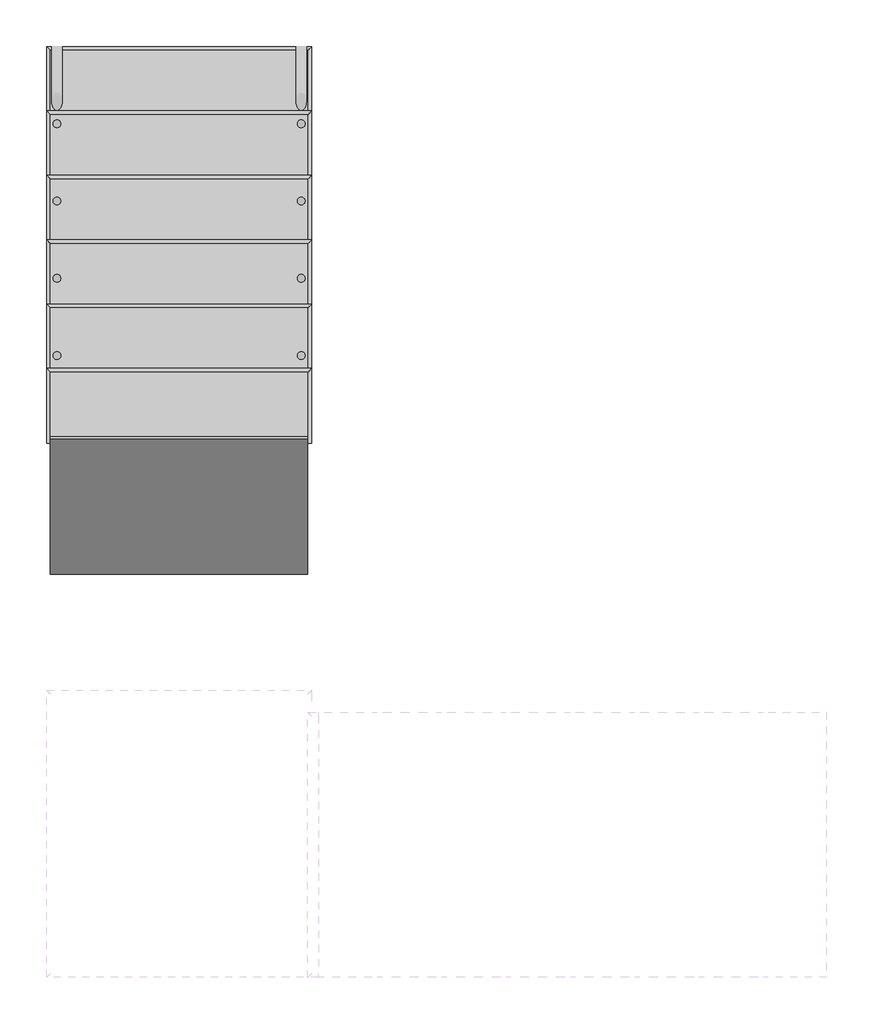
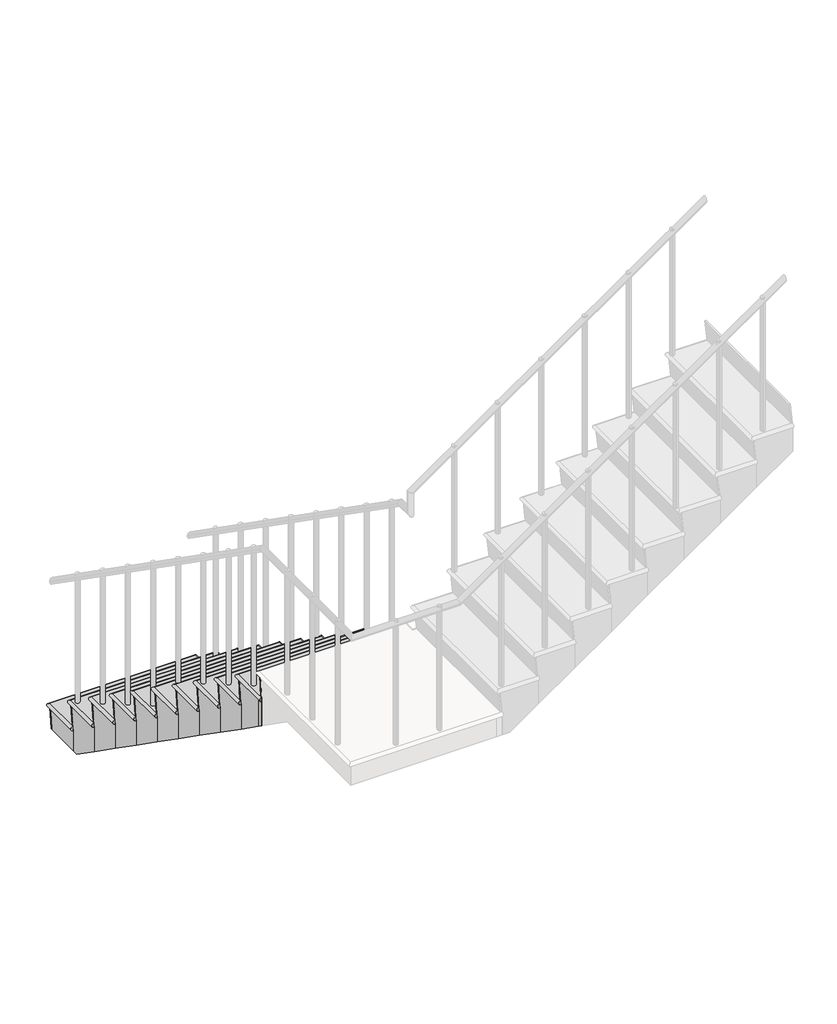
# One storey, part 3 of 6: 1 stair flight.
"""IFC4 building model written with IfcOpenShell, lengths in millimetres."""

from ifc_helpers import new_model, si_unit, frame, origin, place, context, project, spatial, circle_curve, ellipse_curve, faceted_brep, element, save
from ifc_brep_helpers import plane_surface, cylinder_surface, advanced_brep

model = new_model("IFC4")

# Units and contexts
model_context = context("Model", 3, world=origin())
ifc_project = project(units=[si_unit("LENGTHUNIT", "METRE", prefix="MILLI")], contexts=[model_context])

# Site, building, storey
site = spatial("IfcSite", under=ifc_project)
building = spatial("IfcBuilding", under=site)
storey = spatial("IfcBuildingStorey", under=building, Name="樓層 1", Elevation=0.0)

# Stair flight
placement = place(None, origin())
element("IfcStairFlight", 1, ObjectType="20mm 踏板 30mm 突沿 10mm 豎板", at=placement, inside=storey, context=model_context, shape_type="SolidModel", body=[
    faceted_brep([(-6429.5669097, 2976.8888386, 155.0), (-5429.5669097, 2976.8888386, 155.0), (-5429.5669097, 2960.8543559, 0.0), (-6429.5669097, 2960.8543559, 0.0), (-6429.5669097, 2708.7853903, 155.0), (-5429.5669097, 2708.7853903, 155.0), (-5429.5669097, 2708.7853903, 0.0), (-6429.5669097, 2708.7853903, 0.0), (-5429.5669097, 2726.8888386, 330.0), (-6429.5669097, 2726.8888386, 330.0), (-6429.5669097, 2458.7853903, 330.0), (-5429.5669097, 2458.7853903, 330.0), (-5429.5669097, 2458.7853903, 144.4603546), (-5429.5669097, 2665.1573256, 0.0), (-6429.5669097, 2665.1573256, 0.0), (-6429.5669097, 2458.7853903, 144.4603546), (-5429.5669097, 2476.8888386, 505.0), (-6429.5669097, 2476.8888386, 505.0), (-6429.5669097, 2208.7853903, 505.0), (-5429.5669097, 2208.7853903, 505.0), (-5429.5669097, 2208.7853903, 319.4603546), (-6429.5669097, 2208.7853903, 319.4603546), (-5429.5669097, 2226.8888386, 680.0), (-6429.5669097, 2226.8888386, 680.0), (-6429.5669097, 1958.7853903, 680.0), (-5429.5669097, 1958.7853903, 680.0), (-5429.5669097, 1958.7853903, 494.4603546), (-6429.5669097, 1958.7853903, 494.4603546), (-5429.5669097, 1976.8888386, 855.0), (-6429.5669097, 1976.8888386, 855.0), (-6429.5669097, 1708.7853903, 855.0), (-5429.5669097, 1708.7853903, 855.0), (-5429.5669097, 1708.7853903, 669.4603546), (-6429.5669097, 1708.7853903, 669.4603546), (-5429.5669097, 1726.8888386, 1030.0), (-6429.5669097, 1726.8888386, 1030.0), (-6429.5669097, 1458.7853903, 1030.0), (-5429.5669097, 1458.7853903, 1030.0), (-5429.5669097, 1458.7853903, 844.4603546), (-6429.5669097, 1458.7853903, 844.4603546), (-5429.5669097, 1476.8888386, 1205.0), (-6429.5669097, 1476.8888386, 1205.0), (-6429.5669097, 1208.7853903, 1205.0), (-5429.5669097, 1208.7853903, 1205.0), (-5429.5669097, 1208.7853903, 1019.4603546), (-6429.5669097, 1208.7853903, 1019.4603546), (-5429.5669097, 1226.8888386, 1380.0), (-6429.5669097, 1226.8888386, 1380.0), (-6429.5669097, 958.7853903, 1380.0), (-5429.5669097, 958.7853903, 1380.0), (-5429.5669097, 958.7853903, 1194.4603546), (-6429.5669097, 958.7853903, 1194.4603546), (-5429.5669097, 976.8888386, 1555.0), (-6429.5669097, 976.8888386, 1555.0), (-6429.5669097, 708.7853903, 1555.0), (-5429.5669097, 708.7853903, 1555.0), (-5429.5669097, 708.7853903, 1369.4603546), (-6429.5669097, 708.7853903, 1369.4603546), (-5429.5669097, 500.9077212, 1514.974723), (-5429.5669097, 458.7853903, 1544.4603546), (-6429.5669097, 458.7853903, 1544.4603546), (-6429.5669097, 500.9077212, 1514.974723), (-5429.5669097, 458.7853903, 1730.0), (-5429.5669097, 500.9077212, 1730.0), (-5429.5669097, 726.8888386, 1730.0), (-6429.5669097, 726.8888386, 1730.0), (-6429.5669097, 500.9077212, 1730.0), (-6429.5669097, 458.7853903, 1730.0)], [[[0, 1, 2, 3]], [[1, 0, 4, 5]], [[1, 5, 6, 2]], [[4, 0, 3, 7]], [[8, 9, 10, 11]], [[6, 5, 8, 11, 12, 13]], [[4, 7, 14, 15, 10, 9]], [[5, 4, 9, 8]], [[16, 17, 18, 19]], [[16, 19, 20, 12, 11]], [[18, 17, 10, 15, 21]], [[11, 10, 17, 16]], [[22, 23, 24, 25]], [[22, 25, 26, 20, 19]], [[24, 23, 18, 21, 27]], [[19, 18, 23, 22]], [[28, 29, 30, 31]], [[28, 31, 32, 26, 25]], [[30, 29, 24, 27, 33]], [[25, 24, 29, 28]], [[34, 35, 36, 37]], [[34, 37, 38, 32, 31]], [[36, 35, 30, 33, 39]], [[31, 30, 35, 34]], [[40, 41, 42, 43]], [[40, 43, 44, 38, 37]], [[42, 41, 36, 39, 45]], [[37, 36, 41, 40]], [[46, 47, 48, 49]], [[46, 49, 50, 44, 43]], [[48, 47, 42, 45, 51]], [[43, 42, 47, 46]], [[52, 53, 54, 55]], [[52, 55, 56, 50, 49]], [[54, 53, 48, 51, 57]], [[49, 48, 53, 52]], [[2, 6, 13, 14, 7, 3]], [[14, 13, 12, 20, 26, 32, 38, 44, 50, 56, 58, 59, 60, 61, 57, 51, 45, 39, 33, 27, 21, 15]], [[62, 63, 64, 65, 66, 67]], [[63, 62, 59, 58]], [[64, 63, 58, 56, 55]], [[66, 65, 54, 57, 61]], [[67, 66, 61, 60]], [[62, 67, 60, 59]], [[55, 54, 65, 64]]]),
    advanced_brep(
    [(-6429.5669097, 2710.8543559, 175.0), (-6429.5669097, 2708.7853903, 155.0), (-5429.5669097, 2708.7853903, 155.0), (-5429.5669097, 2710.8543559, 175.0), (-5429.5669097, 2985.9077212, 175.0), (-6429.5669097, 2985.9077212, 175.0), (-6429.5669097, 2710.8543559, 155.0), (-6429.5669097, 2985.9077212, 155.0), (-5429.5669097, 2985.9077212, 155.0), (-5429.5669097, 2710.8543559, 155.0), (-6429.5669097, 2710.8543559, 145.0), (-6429.5669097, 2985.9077212, 145.0), (-5429.5669097, 2985.9077212, 145.0), (-5429.5669097, 2710.8543559, 145.0)],
    [
        (0, 1),
        (1, 2),
        (2, 3),
        (3, 0),
        (3, 4),
        (4, 5),
        (5, 0),
        (1, 6),
        (6, 7),
        (7, 8),
        (8, 9),
        (9, 2),
        (9, 3),
        (0, 6),
        (0, 10, circle_curve(frame((-6429.5669097, 2710.8543559, 160.0), z_axis=(0.0, -1.0, 0.0), x_axis=(1.0, 0.0, 0.0)), 15.0)),
        (10, 6),
        (5, 11, ellipse_curve(frame((-6429.5669097, 2985.9077212, 160.0), z_axis=(-0.7071067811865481, -0.7071067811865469, 0.0), x_axis=(0.7071067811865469, -0.7071067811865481, 0.0)), 21.2132034, 15.0)),
        (11, 10),
        (11, 7),
        (4, 12, ellipse_curve(frame((-5429.5669097, 2985.9077212, 160.0), z_axis=(-0.7071067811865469, 0.7071067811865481, 0.0), x_axis=(-0.7071067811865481, -0.7071067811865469, 0.0)), 21.2132034, 15.0)),
        (12, 11),
        (12, 8),
        (13, 3, circle_curve(frame((-5429.5669097, 2710.8543559, 160.0), z_axis=(0.0, -1.0, 0.0), x_axis=(-1.0, 0.0, 0.0)), 15.0)),
        (9, 13),
        (13, 12),
    ],
    [
        plane_surface(frame((-6429.5669097, 2708.7853903, 155.0), z_axis=(0.0, -0.9946917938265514, 0.10289915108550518), x_axis=(1.0, 0.0, 0.0))),
        plane_surface(frame((-5429.5669097, 3000.9077212, 175.0), z_axis=(0.0, 0.0, 1.0), x_axis=(0.0, 1.0, 0.0))),
        plane_surface(frame((-5429.5669097, 3000.9077212, 155.0), z_axis=(0.0, 0.0, -1.0), x_axis=(0.0, -1.0, 0.0))),
        plane_surface(frame((-5429.5669097, 2710.8543559, 175.0), z_axis=(1.0, 0.0, 0.0), x_axis=(0.0, 0.0, -1.0))),
        plane_surface(frame((-6429.5669097, 2985.9077212, 175.0), z_axis=(-1.0, 0.0, 0.0), x_axis=(0.0, 0.0, -1.0))),
        plane_surface(frame((-6429.5669097, 2710.8543559, 175.0), z_axis=(0.0, -1.0, 0.0), x_axis=(0.0, 0.0, -1.0))),
        cylinder_surface(frame((-6429.5669097, 2710.8543559, 160.0), z_axis=(0.0, -1.0, 0.0), x_axis=(1.0, 0.0, 0.0)), 15.0),
        plane_surface(frame((-6429.5669097, 2710.8543559, 145.0), z_axis=(1.0, 0.0, 0.0), x_axis=(0.0, 1.0, 0.0))),
        cylinder_surface(frame((-6429.5669097, 2985.9077212, 160.0), z_axis=(-1.0, 0.0, 0.0), x_axis=(0.0, -1.0, 0.0)), 15.0),
        plane_surface(frame((-6429.5669097, 2985.9077212, 145.0), z_axis=(0.0, -1.0, 0.0), x_axis=(1.0, 0.0, 0.0))),
        plane_surface(frame((-5429.5669097, 2710.8543559, 175.0), z_axis=(0.0, -1.0, 0.0), x_axis=(0.0, 0.0, -1.0))),
        cylinder_surface(frame((-5429.5669097, 2985.9077212, 160.0), z_axis=(0.0, 1.0, 0.0), x_axis=(-1.0, 0.0, 0.0)), 15.0),
        plane_surface(frame((-5429.5669097, 2985.9077212, 145.0), z_axis=(-1.0, 0.0, 0.0), x_axis=(0.0, -1.0, 0.0))),
    ],
    [
        (0, [[1, 2, 3, 4]]),
        (1, [[-4, 5, 6, 7]]),
        (2, [[-2, 8, 9, 10, 11, 12]]),
        (3, [[-3, -12, 13]]),
        (4, [[-1, 14, -8]]),
        (5, [[15, 16, -14]]),
        (6, [[-15, -7, 17, 18]]),
        (7, [[-18, 19, -9, -16]]),
        (8, [[-17, -6, 20, 21]]),
        (9, [[-21, 22, -10, -19]]),
        (10, [[23, -13, 24]]),
        (11, [[-20, -5, -23, 25]]),
        (12, [[-25, -24, -11, -22]]),
    ],
),
    faceted_brep([(-6429.5669097, 2985.9077212, 145.0), (-6429.5669097, 2970.9077212, 0.0), (-6429.5669097, 2960.8543559, 0.0), (-6429.5669097, 2975.8543559, 145.0), (-5429.5669097, 2985.9077212, 145.0), (-5429.5669097, 2975.8543559, 145.0), (-5429.5669097, 2960.8543559, 0.0), (-5429.5669097, 2970.9077212, 0.0)], [[[0, 1, 2, 3]], [[4, 5, 6, 7]], [[1, 0, 4, 7]], [[2, 1, 7, 6]], [[3, 2, 6, 5]], [[0, 3, 5, 4]]]),
    faceted_brep([(-6429.5669097, 2735.9077212, 320.0), (-6429.5669097, 2720.9077212, 175.0), (-6429.5669097, 2710.8543559, 175.0), (-6429.5669097, 2725.8543559, 320.0), (-5429.5669097, 2735.9077212, 320.0), (-5429.5669097, 2725.8543559, 320.0), (-5429.5669097, 2710.8543559, 175.0), (-5429.5669097, 2720.9077212, 175.0)], [[[0, 1, 2, 3]], [[4, 5, 6, 7]], [[1, 0, 4, 7]], [[2, 1, 7, 6]], [[3, 2, 6, 5]], [[0, 3, 5, 4]]]),
    advanced_brep(
    [(-6429.5669097, 2460.8543559, 350.0), (-5429.5669097, 2460.8543559, 350.0), (-5429.5669097, 2735.9077212, 350.0), (-6429.5669097, 2735.9077212, 350.0), (-5429.5669097, 2458.7853903, 330.0), (-6429.5669097, 2458.7853903, 330.0), (-6429.5669097, 2460.8543559, 330.0), (-6429.5669097, 2735.9077212, 330.0), (-5429.5669097, 2735.9077212, 330.0), (-5429.5669097, 2460.8543559, 330.0), (-6429.5669097, 2460.8543559, 320.0), (-6429.5669097, 2735.9077212, 320.0), (-5429.5669097, 2735.9077212, 320.0), (-5429.5669097, 2460.8543559, 320.0)],
    [
        (0, 1),
        (1, 2),
        (2, 3),
        (3, 0),
        (4, 5),
        (5, 6),
        (6, 7),
        (7, 8),
        (8, 9),
        (9, 4),
        (1, 4),
        (9, 1),
        (5, 0),
        (0, 6),
        (0, 10, circle_curve(frame((-6429.5669097, 2460.8543559, 335.0), z_axis=(0.0, -1.0, 0.0), x_axis=(1.0, 0.0, 0.0)), 15.0)),
        (10, 6),
        (3, 11, ellipse_curve(frame((-6429.5669097, 2735.9077212, 335.0), z_axis=(-0.7071067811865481, -0.7071067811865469, 0.0), x_axis=(0.7071067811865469, -0.7071067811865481, 0.0)), 21.2132034, 15.0)),
        (11, 10),
        (11, 7),
        (2, 12, ellipse_curve(frame((-5429.5669097, 2735.9077212, 335.0), z_axis=(-0.7071067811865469, 0.7071067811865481, 0.0), x_axis=(-0.7071067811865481, -0.7071067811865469, 0.0)), 21.2132034, 15.0)),
        (12, 11),
        (12, 8),
        (13, 1, circle_curve(frame((-5429.5669097, 2460.8543559, 335.0), z_axis=(0.0, -1.0, 0.0), x_axis=(-1.0, 0.0, 0.0)), 15.0)),
        (9, 13),
        (13, 12),
    ],
    [
        plane_surface(frame((-5429.5669097, 2750.9077212, 350.0), z_axis=(0.0, 0.0, 1.0), x_axis=(0.0, 1.0, 0.0))),
        plane_surface(frame((-5429.5669097, 2750.9077212, 330.0), z_axis=(0.0, 0.0, -1.0), x_axis=(0.0, -1.0, 0.0))),
        plane_surface(frame((-5429.5669097, 2460.8543559, 350.0), z_axis=(1.0, 0.0, 0.0), x_axis=(0.0, 0.0, -1.0))),
        plane_surface(frame((-6429.5669097, 2735.9077212, 350.0), z_axis=(-1.0, 0.0, 0.0), x_axis=(0.0, 0.0, -1.0))),
        plane_surface(frame((-6429.5669097, 2458.7853903, 330.0), z_axis=(0.0, -0.9946917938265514, 0.10289915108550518), x_axis=(1.0, 0.0, 0.0))),
        plane_surface(frame((-6429.5669097, 2460.8543559, 350.0), z_axis=(0.0, -1.0, 0.0), x_axis=(0.0, 0.0, -1.0))),
        cylinder_surface(frame((-6429.5669097, 2460.8543559, 335.0), z_axis=(0.0, -1.0, 0.0), x_axis=(1.0, 0.0, 0.0)), 15.0),
        plane_surface(frame((-6429.5669097, 2460.8543559, 320.0), z_axis=(1.0, 0.0, 0.0), x_axis=(0.0, 1.0, 0.0))),
        cylinder_surface(frame((-6429.5669097, 2735.9077212, 335.0), z_axis=(-1.0, 0.0, 0.0), x_axis=(0.0, -1.0, 0.0)), 15.0),
        plane_surface(frame((-6429.5669097, 2735.9077212, 320.0), z_axis=(0.0, -1.0, 0.0), x_axis=(1.0, 0.0, 0.0))),
        plane_surface(frame((-5429.5669097, 2460.8543559, 350.0), z_axis=(0.0, -1.0, 0.0), x_axis=(0.0, 0.0, -1.0))),
        cylinder_surface(frame((-5429.5669097, 2735.9077212, 335.0), z_axis=(0.0, 1.0, 0.0), x_axis=(-1.0, 0.0, 0.0)), 15.0),
        plane_surface(frame((-5429.5669097, 2735.9077212, 320.0), z_axis=(-1.0, 0.0, 0.0), x_axis=(0.0, -1.0, 0.0))),
    ],
    [
        (0, [[1, 2, 3, 4]]),
        (1, [[5, 6, 7, 8, 9, 10]]),
        (2, [[11, -10, 12]]),
        (3, [[13, 14, -6]]),
        (4, [[-13, -5, -11, -1]]),
        (5, [[15, 16, -14]]),
        (6, [[-15, -4, 17, 18]]),
        (7, [[-18, 19, -7, -16]]),
        (8, [[-17, -3, 20, 21]]),
        (9, [[-21, 22, -8, -19]]),
        (10, [[23, -12, 24]]),
        (11, [[-20, -2, -23, 25]]),
        (12, [[-25, -24, -9, -22]]),
    ],
),
    faceted_brep([(-6429.5669097, 2485.9077212, 495.0), (-6429.5669097, 2470.9077212, 350.0), (-6429.5669097, 2460.8543559, 350.0), (-6429.5669097, 2475.8543559, 495.0), (-5429.5669097, 2485.9077212, 495.0), (-5429.5669097, 2475.8543559, 495.0), (-5429.5669097, 2460.8543559, 350.0), (-5429.5669097, 2470.9077212, 350.0)], [[[0, 1, 2, 3]], [[4, 5, 6, 7]], [[1, 0, 4, 7]], [[2, 1, 7, 6]], [[3, 2, 6, 5]], [[0, 3, 5, 4]]]),
    advanced_brep(
    [(-6429.5669097, 2210.8543559, 525.0), (-5429.5669097, 2210.8543559, 525.0), (-5429.5669097, 2485.9077212, 525.0), (-6429.5669097, 2485.9077212, 525.0), (-5429.5669097, 2208.7853903, 505.0), (-6429.5669097, 2208.7853903, 505.0), (-6429.5669097, 2210.8543559, 505.0), (-6429.5669097, 2485.9077212, 505.0), (-5429.5669097, 2485.9077212, 505.0), (-5429.5669097, 2210.8543559, 505.0), (-6429.5669097, 2210.8543559, 495.0), (-6429.5669097, 2485.9077212, 495.0), (-5429.5669097, 2485.9077212, 495.0), (-5429.5669097, 2210.8543559, 495.0)],
    [
        (0, 1),
        (1, 2),
        (2, 3),
        (3, 0),
        (4, 5),
        (5, 6),
        (6, 7),
        (7, 8),
        (8, 9),
        (9, 4),
        (1, 4),
        (9, 1),
        (5, 0),
        (0, 6),
        (0, 10, circle_curve(frame((-6429.5669097, 2210.8543559, 510.0), z_axis=(0.0, -1.0, 0.0), x_axis=(1.0, 0.0, 0.0)), 15.0)),
        (10, 6),
        (3, 11, ellipse_curve(frame((-6429.5669097, 2485.9077212, 510.0), z_axis=(-0.7071067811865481, -0.7071067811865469, 0.0), x_axis=(0.7071067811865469, -0.7071067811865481, 0.0)), 21.2132034, 15.0)),
        (11, 10),
        (11, 7),
        (2, 12, ellipse_curve(frame((-5429.5669097, 2485.9077212, 510.0), z_axis=(-0.7071067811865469, 0.7071067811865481, 0.0), x_axis=(-0.7071067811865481, -0.7071067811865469, 0.0)), 21.2132034, 15.0)),
        (12, 11),
        (12, 8),
        (13, 1, circle_curve(frame((-5429.5669097, 2210.8543559, 510.0), z_axis=(0.0, -1.0, 0.0), x_axis=(-1.0, 0.0, 0.0)), 15.0)),
        (9, 13),
        (13, 12),
    ],
    [
        plane_surface(frame((-5429.5669097, 2500.9077212, 525.0), z_axis=(0.0, 0.0, 1.0), x_axis=(0.0, 1.0, 0.0))),
        plane_surface(frame((-5429.5669097, 2500.9077212, 505.0), z_axis=(0.0, 0.0, -1.0), x_axis=(0.0, -1.0, 0.0))),
        plane_surface(frame((-5429.5669097, 2210.8543559, 525.0), z_axis=(1.0, 0.0, 0.0), x_axis=(0.0, 0.0, -1.0))),
        plane_surface(frame((-6429.5669097, 2485.9077212, 525.0), z_axis=(-1.0, 0.0, 0.0), x_axis=(0.0, 0.0, -1.0))),
        plane_surface(frame((-6429.5669097, 2208.7853903, 505.0), z_axis=(0.0, -0.9946917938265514, 0.10289915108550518), x_axis=(1.0, 0.0, 0.0))),
        plane_surface(frame((-6429.5669097, 2210.8543559, 525.0), z_axis=(0.0, -1.0, 0.0), x_axis=(0.0, 0.0, -1.0))),
        cylinder_surface(frame((-6429.5669097, 2210.8543559, 510.0), z_axis=(0.0, -1.0, 0.0), x_axis=(1.0, 0.0, 0.0)), 15.0),
        plane_surface(frame((-6429.5669097, 2210.8543559, 495.0), z_axis=(1.0, 0.0, 0.0), x_axis=(0.0, 1.0, 0.0))),
        cylinder_surface(frame((-6429.5669097, 2485.9077212, 510.0), z_axis=(-1.0, 0.0, 0.0), x_axis=(0.0, -1.0, 0.0)), 15.0),
        plane_surface(frame((-6429.5669097, 2485.9077212, 495.0), z_axis=(0.0, -1.0, 0.0), x_axis=(1.0, 0.0, 0.0))),
        plane_surface(frame((-5429.5669097, 2210.8543559, 525.0), z_axis=(0.0, -1.0, 0.0), x_axis=(0.0, 0.0, -1.0))),
        cylinder_surface(frame((-5429.5669097, 2485.9077212, 510.0), z_axis=(0.0, 1.0, 0.0), x_axis=(-1.0, 0.0, 0.0)), 15.0),
        plane_surface(frame((-5429.5669097, 2485.9077212, 495.0), z_axis=(-1.0, 0.0, 0.0), x_axis=(0.0, -1.0, 0.0))),
    ],
    [
        (0, [[1, 2, 3, 4]]),
        (1, [[5, 6, 7, 8, 9, 10]]),
        (2, [[11, -10, 12]]),
        (3, [[13, 14, -6]]),
        (4, [[-13, -5, -11, -1]]),
        (5, [[15, 16, -14]]),
        (6, [[-15, -4, 17, 18]]),
        (7, [[-18, 19, -7, -16]]),
        (8, [[-17, -3, 20, 21]]),
        (9, [[-21, 22, -8, -19]]),
        (10, [[23, -12, 24]]),
        (11, [[-20, -2, -23, 25]]),
        (12, [[-25, -24, -9, -22]]),
    ],
),
    faceted_brep([(-6429.5669097, 2235.9077212, 670.0), (-6429.5669097, 2220.9077212, 525.0), (-6429.5669097, 2210.8543559, 525.0), (-6429.5669097, 2225.8543559, 670.0), (-5429.5669097, 2235.9077212, 670.0), (-5429.5669097, 2225.8543559, 670.0), (-5429.5669097, 2210.8543559, 525.0), (-5429.5669097, 2220.9077212, 525.0)], [[[0, 1, 2, 3]], [[4, 5, 6, 7]], [[1, 0, 4, 7]], [[2, 1, 7, 6]], [[3, 2, 6, 5]], [[0, 3, 5, 4]]]),
    advanced_brep(
    [(-6429.5669097, 1960.8543559, 700.0), (-5429.5669097, 1960.8543559, 700.0), (-5429.5669097, 2235.9077212, 700.0), (-6429.5669097, 2235.9077212, 700.0), (-5429.5669097, 1958.7853903, 680.0), (-6429.5669097, 1958.7853903, 680.0), (-6429.5669097, 1960.8543559, 680.0), (-6429.5669097, 2235.9077212, 680.0), (-5429.5669097, 2235.9077212, 680.0), (-5429.5669097, 1960.8543559, 680.0), (-6429.5669097, 1960.8543559, 670.0), (-6429.5669097, 2235.9077212, 670.0), (-5429.5669097, 2235.9077212, 670.0), (-5429.5669097, 1960.8543559, 670.0)],
    [
        (0, 1),
        (1, 2),
        (2, 3),
        (3, 0),
        (4, 5),
        (5, 6),
        (6, 7),
        (7, 8),
        (8, 9),
        (9, 4),
        (1, 4),
        (9, 1),
        (5, 0),
        (0, 6),
        (0, 10, circle_curve(frame((-6429.5669097, 1960.8543559, 685.0), z_axis=(0.0, -1.0, 0.0), x_axis=(1.0, 0.0, 0.0)), 15.0)),
        (10, 6),
        (3, 11, ellipse_curve(frame((-6429.5669097, 2235.9077212, 685.0), z_axis=(-0.7071067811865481, -0.7071067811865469, 0.0), x_axis=(0.7071067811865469, -0.7071067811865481, 0.0)), 21.2132034, 15.0)),
        (11, 10),
        (11, 7),
        (2, 12, ellipse_curve(frame((-5429.5669097, 2235.9077212, 685.0), z_axis=(-0.7071067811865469, 0.7071067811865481, 0.0), x_axis=(-0.7071067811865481, -0.7071067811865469, 0.0)), 21.2132034, 15.0)),
        (12, 11),
        (12, 8),
        (13, 1, circle_curve(frame((-5429.5669097, 1960.8543559, 685.0), z_axis=(0.0, -1.0, 0.0), x_axis=(-1.0, 0.0, 0.0)), 15.0)),
        (9, 13),
        (13, 12),
    ],
    [
        plane_surface(frame((-5429.5669097, 2250.9077212, 700.0), z_axis=(0.0, 0.0, 1.0), x_axis=(0.0, 1.0, 0.0))),
        plane_surface(frame((-5429.5669097, 2250.9077212, 680.0), z_axis=(0.0, 0.0, -1.0), x_axis=(0.0, -1.0, 0.0))),
        plane_surface(frame((-5429.5669097, 1960.8543559, 700.0), z_axis=(1.0, 0.0, 0.0), x_axis=(0.0, 0.0, -1.0))),
        plane_surface(frame((-6429.5669097, 2235.9077212, 700.0), z_axis=(-1.0, 0.0, 0.0), x_axis=(0.0, 0.0, -1.0))),
        plane_surface(frame((-6429.5669097, 1958.7853903, 680.0), z_axis=(0.0, -0.9946917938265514, 0.10289915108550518), x_axis=(1.0, 0.0, 0.0))),
        plane_surface(frame((-6429.5669097, 1960.8543559, 700.0), z_axis=(0.0, -1.0, 0.0), x_axis=(0.0, 0.0, -1.0))),
        cylinder_surface(frame((-6429.5669097, 1960.8543559, 685.0), z_axis=(0.0, -1.0, 0.0), x_axis=(1.0, 0.0, 0.0)), 15.0),
        plane_surface(frame((-6429.5669097, 1960.8543559, 670.0), z_axis=(1.0, 0.0, 0.0), x_axis=(0.0, 1.0, 0.0))),
        cylinder_surface(frame((-6429.5669097, 2235.9077212, 685.0), z_axis=(-1.0, 0.0, 0.0), x_axis=(0.0, -1.0, 0.0)), 15.0),
        plane_surface(frame((-6429.5669097, 2235.9077212, 670.0), z_axis=(0.0, -1.0, 0.0), x_axis=(1.0, 0.0, 0.0))),
        plane_surface(frame((-5429.5669097, 1960.8543559, 700.0), z_axis=(0.0, -1.0, 0.0), x_axis=(0.0, 0.0, -1.0))),
        cylinder_surface(frame((-5429.5669097, 2235.9077212, 685.0), z_axis=(0.0, 1.0, 0.0), x_axis=(-1.0, 0.0, 0.0)), 15.0),
        plane_surface(frame((-5429.5669097, 2235.9077212, 670.0), z_axis=(-1.0, 0.0, 0.0), x_axis=(0.0, -1.0, 0.0))),
    ],
    [
        (0, [[1, 2, 3, 4]]),
        (1, [[5, 6, 7, 8, 9, 10]]),
        (2, [[11, -10, 12]]),
        (3, [[13, 14, -6]]),
        (4, [[-13, -5, -11, -1]]),
        (5, [[15, 16, -14]]),
        (6, [[-15, -4, 17, 18]]),
        (7, [[-18, 19, -7, -16]]),
        (8, [[-17, -3, 20, 21]]),
        (9, [[-21, 22, -8, -19]]),
        (10, [[23, -12, 24]]),
        (11, [[-20, -2, -23, 25]]),
        (12, [[-25, -24, -9, -22]]),
    ],
),
    faceted_brep([(-6429.5669097, 1985.9077212, 845.0), (-6429.5669097, 1970.9077212, 700.0), (-6429.5669097, 1960.8543559, 700.0), (-6429.5669097, 1975.8543559, 845.0), (-5429.5669097, 1985.9077212, 845.0), (-5429.5669097, 1975.8543559, 845.0), (-5429.5669097, 1960.8543559, 700.0), (-5429.5669097, 1970.9077212, 700.0)], [[[0, 1, 2, 3]], [[4, 5, 6, 7]], [[1, 0, 4, 7]], [[2, 1, 7, 6]], [[3, 2, 6, 5]], [[0, 3, 5, 4]]]),
    advanced_brep(
    [(-6429.5669097, 1710.8543559, 875.0), (-5429.5669097, 1710.8543559, 875.0), (-5429.5669097, 1985.9077212, 875.0), (-6429.5669097, 1985.9077212, 875.0), (-5429.5669097, 1708.7853903, 855.0), (-6429.5669097, 1708.7853903, 855.0), (-6429.5669097, 1710.8543559, 855.0), (-6429.5669097, 1985.9077212, 855.0), (-5429.5669097, 1985.9077212, 855.0), (-5429.5669097, 1710.8543559, 855.0), (-6429.5669097, 1710.8543559, 845.0), (-6429.5669097, 1985.9077212, 845.0), (-5429.5669097, 1985.9077212, 845.0), (-5429.5669097, 1710.8543559, 845.0)],
    [
        (0, 1),
        (1, 2),
        (2, 3),
        (3, 0),
        (4, 5),
        (5, 6),
        (6, 7),
        (7, 8),
        (8, 9),
        (9, 4),
        (1, 4),
        (9, 1),
        (5, 0),
        (0, 6),
        (0, 10, circle_curve(frame((-6429.5669097, 1710.8543559, 860.0), z_axis=(0.0, -1.0, 0.0), x_axis=(1.0, 0.0, 0.0)), 15.0)),
        (10, 6),
        (3, 11, ellipse_curve(frame((-6429.5669097, 1985.9077212, 860.0), z_axis=(-0.7071067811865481, -0.7071067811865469, 0.0), x_axis=(0.7071067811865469, -0.7071067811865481, 0.0)), 21.2132034, 15.0)),
        (11, 10),
        (11, 7),
        (2, 12, ellipse_curve(frame((-5429.5669097, 1985.9077212, 860.0), z_axis=(-0.7071067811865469, 0.7071067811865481, 0.0), x_axis=(-0.7071067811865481, -0.7071067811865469, 0.0)), 21.2132034, 15.0)),
        (12, 11),
        (12, 8),
        (13, 1, circle_curve(frame((-5429.5669097, 1710.8543559, 860.0), z_axis=(0.0, -1.0, 0.0), x_axis=(-1.0, 0.0, 0.0)), 15.0)),
        (9, 13),
        (13, 12),
    ],
    [
        plane_surface(frame((-5429.5669097, 2000.9077212, 875.0), z_axis=(0.0, 0.0, 1.0), x_axis=(0.0, 1.0, 0.0))),
        plane_surface(frame((-5429.5669097, 2000.9077212, 855.0), z_axis=(0.0, 0.0, -1.0), x_axis=(0.0, -1.0, 0.0))),
        plane_surface(frame((-5429.5669097, 1710.8543559, 875.0), z_axis=(1.0, 0.0, 0.0), x_axis=(0.0, 0.0, -1.0))),
        plane_surface(frame((-6429.5669097, 1985.9077212, 875.0), z_axis=(-1.0, 0.0, 0.0), x_axis=(0.0, 0.0, -1.0))),
        plane_surface(frame((-6429.5669097, 1708.7853903, 855.0), z_axis=(0.0, -0.9946917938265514, 0.10289915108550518), x_axis=(1.0, 0.0, 0.0))),
        plane_surface(frame((-6429.5669097, 1710.8543559, 875.0), z_axis=(0.0, -1.0, 0.0), x_axis=(0.0, 0.0, -1.0))),
        cylinder_surface(frame((-6429.5669097, 1710.8543559, 860.0), z_axis=(0.0, -1.0, 0.0), x_axis=(1.0, 0.0, 0.0)), 15.0),
        plane_surface(frame((-6429.5669097, 1710.8543559, 845.0), z_axis=(1.0, 0.0, 0.0), x_axis=(0.0, 1.0, 0.0))),
        cylinder_surface(frame((-6429.5669097, 1985.9077212, 860.0), z_axis=(-1.0, 0.0, 0.0), x_axis=(0.0, -1.0, 0.0)), 15.0),
        plane_surface(frame((-6429.5669097, 1985.9077212, 845.0), z_axis=(0.0, -1.0, 0.0), x_axis=(1.0, 0.0, 0.0))),
        plane_surface(frame((-5429.5669097, 1710.8543559, 875.0), z_axis=(0.0, -1.0, 0.0), x_axis=(0.0, 0.0, -1.0))),
        cylinder_surface(frame((-5429.5669097, 1985.9077212, 860.0), z_axis=(0.0, 1.0, 0.0), x_axis=(-1.0, 0.0, 0.0)), 15.0),
        plane_surface(frame((-5429.5669097, 1985.9077212, 845.0), z_axis=(-1.0, 0.0, 0.0), x_axis=(0.0, -1.0, 0.0))),
    ],
    [
        (0, [[1, 2, 3, 4]]),
        (1, [[5, 6, 7, 8, 9, 10]]),
        (2, [[11, -10, 12]]),
        (3, [[13, 14, -6]]),
        (4, [[-13, -5, -11, -1]]),
        (5, [[15, 16, -14]]),
        (6, [[-15, -4, 17, 18]]),
        (7, [[-18, 19, -7, -16]]),
        (8, [[-17, -3, 20, 21]]),
        (9, [[-21, 22, -8, -19]]),
        (10, [[23, -12, 24]]),
        (11, [[-20, -2, -23, 25]]),
        (12, [[-25, -24, -9, -22]]),
    ],
),
    faceted_brep([(-6429.5669097, 1735.9077212, 1020.0), (-6429.5669097, 1720.9077212, 875.0), (-6429.5669097, 1710.8543559, 875.0), (-6429.5669097, 1725.8543559, 1020.0), (-5429.5669097, 1735.9077212, 1020.0), (-5429.5669097, 1725.8543559, 1020.0), (-5429.5669097, 1710.8543559, 875.0), (-5429.5669097, 1720.9077212, 875.0)], [[[0, 1, 2, 3]], [[4, 5, 6, 7]], [[1, 0, 4, 7]], [[2, 1, 7, 6]], [[3, 2, 6, 5]], [[0, 3, 5, 4]]]),
    advanced_brep(
    [(-6429.5669097, 1460.8543559, 1050.0), (-5429.5669097, 1460.8543559, 1050.0), (-5429.5669097, 1735.9077212, 1050.0), (-6429.5669097, 1735.9077212, 1050.0), (-5429.5669097, 1458.7853903, 1030.0), (-6429.5669097, 1458.7853903, 1030.0), (-6429.5669097, 1460.8543559, 1030.0), (-6429.5669097, 1735.9077212, 1030.0), (-5429.5669097, 1735.9077212, 1030.0), (-5429.5669097, 1460.8543559, 1030.0), (-6429.5669097, 1460.8543559, 1020.0), (-6429.5669097, 1735.9077212, 1020.0), (-5429.5669097, 1735.9077212, 1020.0), (-5429.5669097, 1460.8543559, 1020.0)],
    [
        (0, 1),
        (1, 2),
        (2, 3),
        (3, 0),
        (4, 5),
        (5, 6),
        (6, 7),
        (7, 8),
        (8, 9),
        (9, 4),
        (1, 4),
        (9, 1),
        (5, 0),
        (0, 6),
        (0, 10, circle_curve(frame((-6429.5669097, 1460.8543559, 1035.0), z_axis=(0.0, -1.0, 0.0), x_axis=(1.0, 0.0, 0.0)), 15.0)),
        (10, 6),
        (3, 11, ellipse_curve(frame((-6429.5669097, 1735.9077212, 1035.0), z_axis=(-0.7071067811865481, -0.7071067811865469, 0.0), x_axis=(0.7071067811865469, -0.7071067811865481, 0.0)), 21.2132034, 15.0)),
        (11, 10),
        (11, 7),
        (2, 12, ellipse_curve(frame((-5429.5669097, 1735.9077212, 1035.0), z_axis=(-0.7071067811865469, 0.7071067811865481, 0.0), x_axis=(-0.7071067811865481, -0.7071067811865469, 0.0)), 21.2132034, 15.0)),
        (12, 11),
        (12, 8),
        (13, 1, circle_curve(frame((-5429.5669097, 1460.8543559, 1035.0), z_axis=(0.0, -1.0, 0.0), x_axis=(-1.0, 0.0, 0.0)), 15.0)),
        (9, 13),
        (13, 12),
    ],
    [
        plane_surface(frame((-5429.5669097, 1750.9077212, 1050.0), z_axis=(0.0, 0.0, 1.0), x_axis=(0.0, 1.0, 0.0))),
        plane_surface(frame((-5429.5669097, 1750.9077212, 1030.0), z_axis=(0.0, 0.0, -1.0), x_axis=(0.0, -1.0, 0.0))),
        plane_surface(frame((-5429.5669097, 1460.8543559, 1050.0), z_axis=(1.0, 0.0, 0.0), x_axis=(0.0, 0.0, -1.0))),
        plane_surface(frame((-6429.5669097, 1735.9077212, 1050.0), z_axis=(-1.0, 0.0, 0.0), x_axis=(0.0, 0.0, -1.0))),
        plane_surface(frame((-6429.5669097, 1458.7853903, 1030.0), z_axis=(0.0, -0.9946917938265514, 0.10289915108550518), x_axis=(1.0, 0.0, 0.0))),
        plane_surface(frame((-6429.5669097, 1460.8543559, 1050.0), z_axis=(0.0, -1.0, 0.0), x_axis=(0.0, 0.0, -1.0))),
        cylinder_surface(frame((-6429.5669097, 1460.8543559, 1035.0), z_axis=(0.0, -1.0, 0.0), x_axis=(1.0, 0.0, 0.0)), 15.0),
        plane_surface(frame((-6429.5669097, 1460.8543559, 1020.0), z_axis=(1.0, 0.0, 0.0), x_axis=(0.0, 1.0, 0.0))),
        cylinder_surface(frame((-6429.5669097, 1735.9077212, 1035.0), z_axis=(-1.0, 0.0, 0.0), x_axis=(0.0, -1.0, 0.0)), 15.0),
        plane_surface(frame((-6429.5669097, 1735.9077212, 1020.0), z_axis=(0.0, -1.0, 0.0), x_axis=(1.0, 0.0, 0.0))),
        plane_surface(frame((-5429.5669097, 1460.8543559, 1050.0), z_axis=(0.0, -1.0, 0.0), x_axis=(0.0, 0.0, -1.0))),
        cylinder_surface(frame((-5429.5669097, 1735.9077212, 1035.0), z_axis=(0.0, 1.0, 0.0), x_axis=(-1.0, 0.0, 0.0)), 15.0),
        plane_surface(frame((-5429.5669097, 1735.9077212, 1020.0), z_axis=(-1.0, 0.0, 0.0), x_axis=(0.0, -1.0, 0.0))),
    ],
    [
        (0, [[1, 2, 3, 4]]),
        (1, [[5, 6, 7, 8, 9, 10]]),
        (2, [[11, -10, 12]]),
        (3, [[13, 14, -6]]),
        (4, [[-13, -5, -11, -1]]),
        (5, [[15, 16, -14]]),
        (6, [[-15, -4, 17, 18]]),
        (7, [[-18, 19, -7, -16]]),
        (8, [[-17, -3, 20, 21]]),
        (9, [[-21, 22, -8, -19]]),
        (10, [[23, -12, 24]]),
        (11, [[-20, -2, -23, 25]]),
        (12, [[-25, -24, -9, -22]]),
    ],
),
    faceted_brep([(-6429.5669097, 1485.9077212, 1195.0), (-6429.5669097, 1470.9077212, 1050.0), (-6429.5669097, 1460.8543559, 1050.0), (-6429.5669097, 1475.8543559, 1195.0), (-5429.5669097, 1485.9077212, 1195.0), (-5429.5669097, 1475.8543559, 1195.0), (-5429.5669097, 1460.8543559, 1050.0), (-5429.5669097, 1470.9077212, 1050.0)], [[[0, 1, 2, 3]], [[4, 5, 6, 7]], [[1, 0, 4, 7]], [[2, 1, 7, 6]], [[3, 2, 6, 5]], [[0, 3, 5, 4]]]),
    advanced_brep(
    [(-6429.5669097, 1210.8543559, 1225.0), (-5429.5669097, 1210.8543559, 1225.0), (-5429.5669097, 1485.9077212, 1225.0), (-6429.5669097, 1485.9077212, 1225.0), (-5429.5669097, 1208.7853903, 1205.0), (-6429.5669097, 1208.7853903, 1205.0), (-6429.5669097, 1210.8543559, 1205.0), (-6429.5669097, 1485.9077212, 1205.0), (-5429.5669097, 1485.9077212, 1205.0), (-5429.5669097, 1210.8543559, 1205.0), (-6429.5669097, 1210.8543559, 1195.0), (-6429.5669097, 1485.9077212, 1195.0), (-5429.5669097, 1485.9077212, 1195.0), (-5429.5669097, 1210.8543559, 1195.0)],
    [
        (0, 1),
        (1, 2),
        (2, 3),
        (3, 0),
        (4, 5),
        (5, 6),
        (6, 7),
        (7, 8),
        (8, 9),
        (9, 4),
        (1, 4),
        (9, 1),
        (5, 0),
        (0, 6),
        (0, 10, circle_curve(frame((-6429.5669097, 1210.8543559, 1210.0), z_axis=(0.0, -1.0, 0.0), x_axis=(1.0, 0.0, 0.0)), 15.0)),
        (10, 6),
        (3, 11, ellipse_curve(frame((-6429.5669097, 1485.9077212, 1210.0), z_axis=(-0.7071067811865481, -0.7071067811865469, 0.0), x_axis=(0.7071067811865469, -0.7071067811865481, 0.0)), 21.2132034, 15.0)),
        (11, 10),
        (11, 7),
        (2, 12, ellipse_curve(frame((-5429.5669097, 1485.9077212, 1210.0), z_axis=(-0.7071067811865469, 0.7071067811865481, 0.0), x_axis=(-0.7071067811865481, -0.7071067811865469, 0.0)), 21.2132034, 15.0)),
        (12, 11),
        (12, 8),
        (13, 1, circle_curve(frame((-5429.5669097, 1210.8543559, 1210.0), z_axis=(0.0, -1.0, 0.0), x_axis=(-1.0, 0.0, 0.0)), 15.0)),
        (9, 13),
        (13, 12),
    ],
    [
        plane_surface(frame((-5429.5669097, 1500.9077212, 1225.0), z_axis=(0.0, 0.0, 1.0), x_axis=(0.0, 1.0, 0.0))),
        plane_surface(frame((-5429.5669097, 1500.9077212, 1205.0), z_axis=(0.0, 0.0, -1.0), x_axis=(0.0, -1.0, 0.0))),
        plane_surface(frame((-5429.5669097, 1210.8543559, 1225.0), z_axis=(1.0, 0.0, 0.0), x_axis=(0.0, 0.0, -1.0))),
        plane_surface(frame((-6429.5669097, 1485.9077212, 1225.0), z_axis=(-1.0, 0.0, 0.0), x_axis=(0.0, 0.0, -1.0))),
        plane_surface(frame((-6429.5669097, 1208.7853903, 1205.0), z_axis=(0.0, -0.9946917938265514, 0.10289915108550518), x_axis=(1.0, 0.0, 0.0))),
        plane_surface(frame((-6429.5669097, 1210.8543559, 1225.0), z_axis=(0.0, -1.0, 0.0), x_axis=(0.0, 0.0, -1.0))),
        cylinder_surface(frame((-6429.5669097, 1210.8543559, 1210.0), z_axis=(0.0, -1.0, 0.0), x_axis=(1.0, 0.0, 0.0)), 15.0),
        plane_surface(frame((-6429.5669097, 1210.8543559, 1195.0), z_axis=(1.0, 0.0, 0.0), x_axis=(0.0, 1.0, 0.0))),
        cylinder_surface(frame((-6429.5669097, 1485.9077212, 1210.0), z_axis=(-1.0, 0.0, 0.0), x_axis=(0.0, -1.0, 0.0)), 15.0),
        plane_surface(frame((-6429.5669097, 1485.9077212, 1195.0), z_axis=(0.0, -1.0, 0.0), x_axis=(1.0, 0.0, 0.0))),
        plane_surface(frame((-5429.5669097, 1210.8543559, 1225.0), z_axis=(0.0, -1.0, 0.0), x_axis=(0.0, 0.0, -1.0))),
        cylinder_surface(frame((-5429.5669097, 1485.9077212, 1210.0), z_axis=(0.0, 1.0, 0.0), x_axis=(-1.0, 0.0, 0.0)), 15.0),
        plane_surface(frame((-5429.5669097, 1485.9077212, 1195.0), z_axis=(-1.0, 0.0, 0.0), x_axis=(0.0, -1.0, 0.0))),
    ],
    [
        (0, [[1, 2, 3, 4]]),
        (1, [[5, 6, 7, 8, 9, 10]]),
        (2, [[11, -10, 12]]),
        (3, [[13, 14, -6]]),
        (4, [[-13, -5, -11, -1]]),
        (5, [[15, 16, -14]]),
        (6, [[-15, -4, 17, 18]]),
        (7, [[-18, 19, -7, -16]]),
        (8, [[-17, -3, 20, 21]]),
        (9, [[-21, 22, -8, -19]]),
        (10, [[23, -12, 24]]),
        (11, [[-20, -2, -23, 25]]),
        (12, [[-25, -24, -9, -22]]),
    ],
),
    faceted_brep([(-6429.5669097, 1235.9077212, 1370.0), (-6429.5669097, 1220.9077212, 1225.0), (-6429.5669097, 1210.8543559, 1225.0), (-6429.5669097, 1225.8543559, 1370.0), (-5429.5669097, 1235.9077212, 1370.0), (-5429.5669097, 1225.8543559, 1370.0), (-5429.5669097, 1210.8543559, 1225.0), (-5429.5669097, 1220.9077212, 1225.0)], [[[0, 1, 2, 3]], [[4, 5, 6, 7]], [[1, 0, 4, 7]], [[2, 1, 7, 6]], [[3, 2, 6, 5]], [[0, 3, 5, 4]]]),
    advanced_brep(
    [(-6429.5669097, 960.8543559, 1400.0), (-5429.5669097, 960.8543559, 1400.0), (-5429.5669097, 1235.9077212, 1400.0), (-6429.5669097, 1235.9077212, 1400.0), (-5429.5669097, 958.7853903, 1380.0), (-6429.5669097, 958.7853903, 1380.0), (-6429.5669097, 960.8543559, 1380.0), (-6429.5669097, 1235.9077212, 1380.0), (-5429.5669097, 1235.9077212, 1380.0), (-5429.5669097, 960.8543559, 1380.0), (-6429.5669097, 960.8543559, 1370.0), (-6429.5669097, 1235.9077212, 1370.0), (-5429.5669097, 1235.9077212, 1370.0), (-5429.5669097, 960.8543559, 1370.0)],
    [
        (0, 1),
        (1, 2),
        (2, 3),
        (3, 0),
        (4, 5),
        (5, 6),
        (6, 7),
        (7, 8),
        (8, 9),
        (9, 4),
        (1, 4),
        (9, 1),
        (5, 0),
        (0, 6),
        (0, 10, circle_curve(frame((-6429.5669097, 960.8543559, 1385.0), z_axis=(0.0, -1.0, 0.0), x_axis=(1.0, 0.0, 0.0)), 15.0)),
        (10, 6),
        (3, 11, ellipse_curve(frame((-6429.5669097, 1235.9077212, 1385.0), z_axis=(-0.7071067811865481, -0.7071067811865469, 0.0), x_axis=(0.7071067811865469, -0.7071067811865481, 0.0)), 21.2132034, 15.0)),
        (11, 10),
        (11, 7),
        (2, 12, ellipse_curve(frame((-5429.5669097, 1235.9077212, 1385.0), z_axis=(-0.7071067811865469, 0.7071067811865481, 0.0), x_axis=(-0.7071067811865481, -0.7071067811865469, 0.0)), 21.2132034, 15.0)),
        (12, 11),
        (12, 8),
        (13, 1, circle_curve(frame((-5429.5669097, 960.8543559, 1385.0), z_axis=(0.0, -1.0, 0.0), x_axis=(-1.0, 0.0, 0.0)), 15.0)),
        (9, 13),
        (13, 12),
    ],
    [
        plane_surface(frame((-5429.5669097, 1250.9077212, 1400.0), z_axis=(0.0, 0.0, 1.0), x_axis=(0.0, 1.0, 0.0))),
        plane_surface(frame((-5429.5669097, 1250.9077212, 1380.0), z_axis=(0.0, 0.0, -1.0), x_axis=(0.0, -1.0, 0.0))),
        plane_surface(frame((-5429.5669097, 960.8543559, 1400.0), z_axis=(1.0, 0.0, 0.0), x_axis=(0.0, 0.0, -1.0))),
        plane_surface(frame((-6429.5669097, 1235.9077212, 1400.0), z_axis=(-1.0, 0.0, 0.0), x_axis=(0.0, 0.0, -1.0))),
        plane_surface(frame((-6429.5669097, 958.7853903, 1380.0), z_axis=(0.0, -0.9946917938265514, 0.10289915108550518), x_axis=(1.0, 0.0, 0.0))),
        plane_surface(frame((-6429.5669097, 960.8543559, 1400.0), z_axis=(0.0, -1.0, 0.0), x_axis=(0.0, 0.0, -1.0))),
        cylinder_surface(frame((-6429.5669097, 960.8543559, 1385.0), z_axis=(0.0, -1.0, 0.0), x_axis=(1.0, 0.0, 0.0)), 15.0),
        plane_surface(frame((-6429.5669097, 960.8543559, 1370.0), z_axis=(1.0, 0.0, 0.0), x_axis=(0.0, 1.0, 0.0))),
        cylinder_surface(frame((-6429.5669097, 1235.9077212, 1385.0), z_axis=(-1.0, 0.0, 0.0), x_axis=(0.0, -1.0, 0.0)), 15.0),
        plane_surface(frame((-6429.5669097, 1235.9077212, 1370.0), z_axis=(0.0, -1.0, 0.0), x_axis=(1.0, 0.0, 0.0))),
        plane_surface(frame((-5429.5669097, 960.8543559, 1400.0), z_axis=(0.0, -1.0, 0.0), x_axis=(0.0, 0.0, -1.0))),
        cylinder_surface(frame((-5429.5669097, 1235.9077212, 1385.0), z_axis=(0.0, 1.0, 0.0), x_axis=(-1.0, 0.0, 0.0)), 15.0),
        plane_surface(frame((-5429.5669097, 1235.9077212, 1370.0), z_axis=(-1.0, 0.0, 0.0), x_axis=(0.0, -1.0, 0.0))),
    ],
    [
        (0, [[1, 2, 3, 4]]),
        (1, [[5, 6, 7, 8, 9, 10]]),
        (2, [[11, -10, 12]]),
        (3, [[13, 14, -6]]),
        (4, [[-13, -5, -11, -1]]),
        (5, [[15, 16, -14]]),
        (6, [[-15, -4, 17, 18]]),
        (7, [[-18, 19, -7, -16]]),
        (8, [[-17, -3, 20, 21]]),
        (9, [[-21, 22, -8, -19]]),
        (10, [[23, -12, 24]]),
        (11, [[-20, -2, -23, 25]]),
        (12, [[-25, -24, -9, -22]]),
    ],
),
    faceted_brep([(-6429.5669097, 985.9077212, 1545.0), (-6429.5669097, 970.9077212, 1400.0), (-6429.5669097, 960.8543559, 1400.0), (-6429.5669097, 975.8543559, 1545.0), (-5429.5669097, 985.9077212, 1545.0), (-5429.5669097, 975.8543559, 1545.0), (-5429.5669097, 960.8543559, 1400.0), (-5429.5669097, 970.9077212, 1400.0)], [[[0, 1, 2, 3]], [[4, 5, 6, 7]], [[1, 0, 4, 7]], [[2, 1, 7, 6]], [[3, 2, 6, 5]], [[0, 3, 5, 4]]]),
    advanced_brep(
    [(-6429.5669097, 710.8543559, 1575.0), (-5429.5669097, 710.8543559, 1575.0), (-5429.5669097, 985.9077212, 1575.0), (-6429.5669097, 985.9077212, 1575.0), (-5429.5669097, 708.7853903, 1555.0), (-6429.5669097, 708.7853903, 1555.0), (-6429.5669097, 710.8543559, 1555.0), (-6429.5669097, 985.9077212, 1555.0), (-5429.5669097, 985.9077212, 1555.0), (-5429.5669097, 710.8543559, 1555.0), (-6429.5669097, 710.8543559, 1545.0), (-6429.5669097, 985.9077212, 1545.0), (-5429.5669097, 985.9077212, 1545.0), (-5429.5669097, 710.8543559, 1545.0)],
    [
        (0, 1),
        (1, 2),
        (2, 3),
        (3, 0),
        (4, 5),
        (5, 6),
        (6, 7),
        (7, 8),
        (8, 9),
        (9, 4),
        (1, 4),
        (9, 1),
        (5, 0),
        (0, 6),
        (0, 10, circle_curve(frame((-6429.5669097, 710.8543559, 1560.0), z_axis=(0.0, -1.0, 0.0), x_axis=(1.0, 0.0, 0.0)), 15.0)),
        (10, 6),
        (3, 11, ellipse_curve(frame((-6429.5669097, 985.9077212, 1560.0), z_axis=(-0.7071067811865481, -0.7071067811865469, 0.0), x_axis=(0.7071067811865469, -0.7071067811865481, 0.0)), 21.2132034, 15.0)),
        (11, 10),
        (11, 7),
        (2, 12, ellipse_curve(frame((-5429.5669097, 985.9077212, 1560.0), z_axis=(-0.7071067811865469, 0.7071067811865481, 0.0), x_axis=(-0.7071067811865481, -0.7071067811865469, 0.0)), 21.2132034, 15.0)),
        (12, 11),
        (12, 8),
        (13, 1, circle_curve(frame((-5429.5669097, 710.8543559, 1560.0), z_axis=(0.0, -1.0, 0.0), x_axis=(-1.0, 0.0, 0.0)), 15.0)),
        (9, 13),
        (13, 12),
    ],
    [
        plane_surface(frame((-5429.5669097, 1000.9077212, 1575.0), z_axis=(0.0, 0.0, 1.0), x_axis=(0.0, 1.0, 0.0))),
        plane_surface(frame((-5429.5669097, 1000.9077212, 1555.0), z_axis=(0.0, 0.0, -1.0), x_axis=(0.0, -1.0, 0.0))),
        plane_surface(frame((-5429.5669097, 710.8543559, 1575.0), z_axis=(1.0, 0.0, 0.0), x_axis=(0.0, 0.0, -1.0))),
        plane_surface(frame((-6429.5669097, 985.9077212, 1575.0), z_axis=(-1.0, 0.0, 0.0), x_axis=(0.0, 0.0, -1.0))),
        plane_surface(frame((-6429.5669097, 708.7853903, 1555.0), z_axis=(0.0, -0.9946917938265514, 0.10289915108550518), x_axis=(1.0, 0.0, 0.0))),
        plane_surface(frame((-6429.5669097, 710.8543559, 1575.0), z_axis=(0.0, -1.0, 0.0), x_axis=(0.0, 0.0, -1.0))),
        cylinder_surface(frame((-6429.5669097, 710.8543559, 1560.0), z_axis=(0.0, -1.0, 0.0), x_axis=(1.0, 0.0, 0.0)), 15.0),
        plane_surface(frame((-6429.5669097, 710.8543559, 1545.0), z_axis=(1.0, 0.0, 0.0), x_axis=(0.0, 1.0, 0.0))),
        cylinder_surface(frame((-6429.5669097, 985.9077212, 1560.0), z_axis=(-1.0, 0.0, 0.0), x_axis=(0.0, -1.0, 0.0)), 15.0),
        plane_surface(frame((-6429.5669097, 985.9077212, 1545.0), z_axis=(0.0, -1.0, 0.0), x_axis=(1.0, 0.0, 0.0))),
        plane_surface(frame((-5429.5669097, 710.8543559, 1575.0), z_axis=(0.0, -1.0, 0.0), x_axis=(0.0, 0.0, -1.0))),
        cylinder_surface(frame((-5429.5669097, 985.9077212, 1560.0), z_axis=(0.0, 1.0, 0.0), x_axis=(-1.0, 0.0, 0.0)), 15.0),
        plane_surface(frame((-5429.5669097, 985.9077212, 1545.0), z_axis=(-1.0, 0.0, 0.0), x_axis=(0.0, -1.0, 0.0))),
    ],
    [
        (0, [[1, 2, 3, 4]]),
        (1, [[5, 6, 7, 8, 9, 10]]),
        (2, [[11, -10, 12]]),
        (3, [[13, 14, -6]]),
        (4, [[-13, -5, -11, -1]]),
        (5, [[15, 16, -14]]),
        (6, [[-15, -4, 17, 18]]),
        (7, [[-18, 19, -7, -16]]),
        (8, [[-17, -3, 20, 21]]),
        (9, [[-21, 22, -8, -19]]),
        (10, [[23, -12, 24]]),
        (11, [[-20, -2, -23, 25]]),
        (12, [[-25, -24, -9, -22]]),
    ],
),
    faceted_brep([(-6429.5669097, 485.9077212, 1895.0), (-6429.5669097, 470.9077212, 1750.0), (-6429.5669097, 460.8543559, 1750.0), (-6429.5669097, 475.8543559, 1895.0), (-5429.5669097, 485.9077212, 1895.0), (-5429.5669097, 475.8543559, 1895.0), (-5429.5669097, 460.8543559, 1750.0), (-5429.5669097, 470.9077212, 1750.0)], [[[0, 1, 2, 3]], [[4, 5, 6, 7]], [[1, 0, 4, 7]], [[2, 1, 7, 6]], [[3, 2, 6, 5]], [[0, 3, 5, 4]]]),
    faceted_brep([(-6429.5669097, 735.9077212, 1720.0), (-6429.5669097, 720.9077212, 1575.0), (-6429.5669097, 710.8543559, 1575.0), (-6429.5669097, 725.8543559, 1720.0), (-5429.5669097, 735.9077212, 1720.0), (-5429.5669097, 725.8543559, 1720.0), (-5429.5669097, 710.8543559, 1575.0), (-5429.5669097, 720.9077212, 1575.0)], [[[0, 1, 2, 3]], [[4, 5, 6, 7]], [[1, 0, 4, 7]], [[2, 1, 7, 6]], [[3, 2, 6, 5]], [[0, 3, 5, 4]]]),
    advanced_brep(
    [(-6429.5669097, 460.8543559, 1750.0), (-5429.5669097, 460.8543559, 1750.0), (-5429.5669097, 500.9077212, 1750.0), (-5429.5669097, 735.9077212, 1750.0), (-6429.5669097, 735.9077212, 1750.0), (-6429.5669097, 500.9077212, 1750.0), (-5429.5669097, 458.7853903, 1730.0), (-6429.5669097, 458.7853903, 1730.0), (-6429.5669097, 460.8543559, 1730.0), (-6429.5669097, 500.9077212, 1730.0), (-6429.5669097, 735.9077212, 1730.0), (-5429.5669097, 735.9077212, 1730.0), (-5429.5669097, 500.9077212, 1730.0), (-5429.5669097, 460.8543559, 1730.0), (-6429.5669097, 460.8543559, 1720.0), (-6429.5669097, 735.9077212, 1720.0), (-5429.5669097, 735.9077212, 1720.0), (-5429.5669097, 460.8543559, 1720.0)],
    [
        (0, 1),
        (1, 2),
        (2, 3),
        (3, 4),
        (4, 5),
        (5, 0),
        (6, 7),
        (7, 8),
        (8, 9),
        (9, 10),
        (10, 11),
        (11, 12),
        (12, 13),
        (13, 6),
        (1, 6),
        (13, 1),
        (7, 0),
        (0, 8),
        (0, 14, circle_curve(frame((-6429.5669097, 460.8543559, 1735.0), z_axis=(0.0, -1.0, 0.0), x_axis=(1.0, 0.0, 0.0)), 15.0)),
        (14, 8),
        (4, 15, ellipse_curve(frame((-6429.5669097, 735.9077212, 1735.0), z_axis=(-0.7071067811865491, -0.707106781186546, 0.0), x_axis=(0.707106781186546, -0.7071067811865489, 0.0)), 21.2132034, 15.0)),
        (15, 14),
        (15, 10),
        (3, 16, ellipse_curve(frame((-5429.5669097, 735.9077212, 1735.0), z_axis=(-0.7071067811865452, 0.7071067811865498, 0.0), x_axis=(-0.7071067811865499, -0.7071067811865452, 0.0)), 21.2132034, 15.0)),
        (16, 15),
        (16, 11),
        (17, 1, circle_curve(frame((-5429.5669097, 460.8543559, 1735.0), z_axis=(0.0, -1.0, 0.0), x_axis=(-1.0, 0.0, 0.0)), 15.0)),
        (13, 17),
        (17, 16),
    ],
    [
        plane_surface(frame((-5429.5669097, 500.9077212, 1750.0), z_axis=(0.0, 0.0, 1.0), x_axis=(0.0, 1.0, 0.0))),
        plane_surface(frame((-5429.5669097, 500.9077212, 1730.0), z_axis=(0.0, 0.0, -1.0), x_axis=(0.0, -1.0, 0.0))),
        plane_surface(frame((-5429.5669097, 460.8543559, 1750.0), z_axis=(1.0, 0.0, 0.0), x_axis=(0.0, 0.0, -1.0))),
        plane_surface(frame((-6429.5669097, 500.9077212, 1750.0), z_axis=(-1.0, 0.0, 0.0), x_axis=(0.0, 0.0, -1.0))),
        plane_surface(frame((-6429.5669097, 458.7853903, 1730.0), z_axis=(0.0, -0.9946917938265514, 0.10289915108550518), x_axis=(1.0, 0.0, 0.0))),
        plane_surface(frame((-6429.5669097, 460.8543559, 1750.0), z_axis=(0.0, -1.0, 0.0), x_axis=(0.0, 0.0, -1.0))),
        cylinder_surface(frame((-6429.5669097, 460.8543559, 1735.0), z_axis=(0.0, -1.0, 0.0), x_axis=(1.0, 0.0, 0.0)), 15.0),
        plane_surface(frame((-6429.5669097, 460.8543559, 1720.0), z_axis=(1.0, 0.0, 0.0), x_axis=(0.0, 1.0, 0.0))),
        cylinder_surface(frame((-6429.5669097, 735.9077212, 1735.0), z_axis=(-1.0, 0.0, 0.0), x_axis=(0.0, -1.0, 0.0)), 15.0),
        plane_surface(frame((-6429.5669097, 735.9077212, 1720.0), z_axis=(0.0, -1.0, 0.0), x_axis=(1.0, 0.0, 0.0))),
        plane_surface(frame((-5429.5669097, 460.8543559, 1750.0), z_axis=(0.0, -1.0, 0.0), x_axis=(0.0, 0.0, -1.0))),
        cylinder_surface(frame((-5429.5669097, 735.9077212, 1735.0), z_axis=(0.0, 1.0, 0.0), x_axis=(-1.0, 0.0, 0.0)), 15.0),
        plane_surface(frame((-5429.5669097, 735.9077212, 1720.0), z_axis=(-1.0, 0.0, 0.0), x_axis=(0.0, -1.0, 0.0))),
    ],
    [
        (0, [[1, 2, 3, 4, 5, 6]]),
        (1, [[7, 8, 9, 10, 11, 12, 13, 14]]),
        (2, [[15, -14, 16]]),
        (3, [[17, 18, -8]]),
        (4, [[-17, -7, -15, -1]]),
        (5, [[19, 20, -18]]),
        (6, [[-19, -6, -5, 21, 22]]),
        (7, [[-22, 23, -10, -9, -20]]),
        (8, [[-21, -4, 24, 25]]),
        (9, [[-25, 26, -11, -23]]),
        (10, [[27, -16, 28]]),
        (11, [[-24, -3, -2, -27, 29]]),
        (12, [[-29, -28, -13, -12, -26]]),
    ],
),
])

save(model, "model.ifc")
